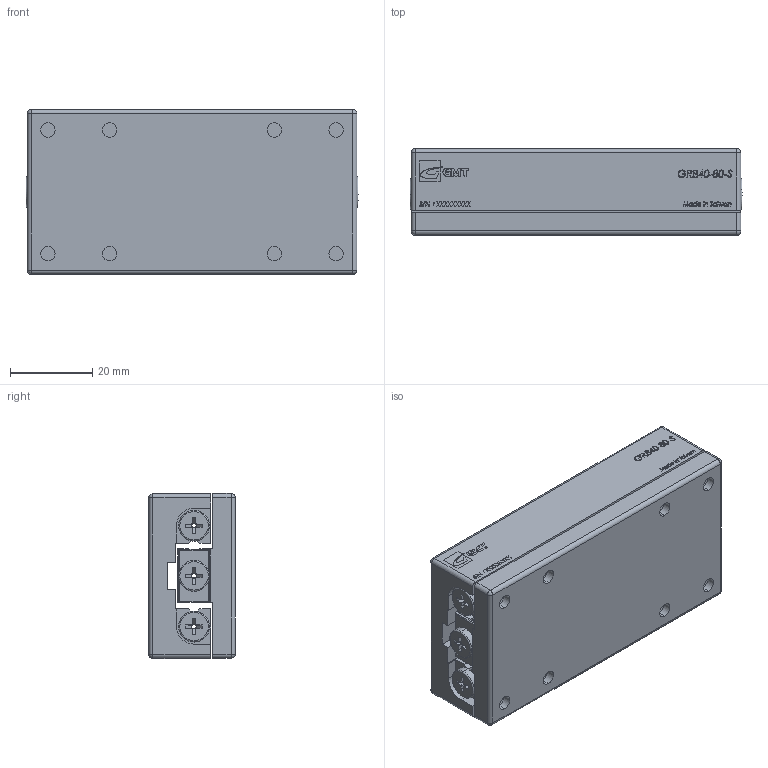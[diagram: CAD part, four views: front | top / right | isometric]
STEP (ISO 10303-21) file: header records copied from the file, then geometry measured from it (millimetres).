
FILE_DESCRIPTION (( 'STEP AP203' ), '1' );
FILE_NAME ('GRB40-80-S.STEP', '2013-12-17T06:11:56', ( '' ), ( '' ), 'SwSTEP 2.0', 'SolidWorks 2013', '' );
FILE_SCHEMA (( 'CONFIG_CONTROL_DESIGN' ));
Length unit declared in the file: millimetre
Products named in the file (1): GRB40-80-S
Bounding box: 80.6 x 21 x 40.07 mm (x, y, z)
Surface area: 21441.7 mm2 (no closed solid volume)
Topology: 0 solids, 42 shells, 387 faces, 1997 edges, 1616 vertices
Faces by surface type: plane 225, cylinder 88, torus 24, cone 24, bspline 18, sphere 8
Entity records: 24795 total; most frequent: CARTESIAN_POINT 10015, ORIENTED_EDGE 2728, DIRECTION 2691, EDGE_CURVE 1989, VERTEX_POINT 1616, VECTOR 1187, LINE 1187, AXIS2_PLACEMENT_3D 752
